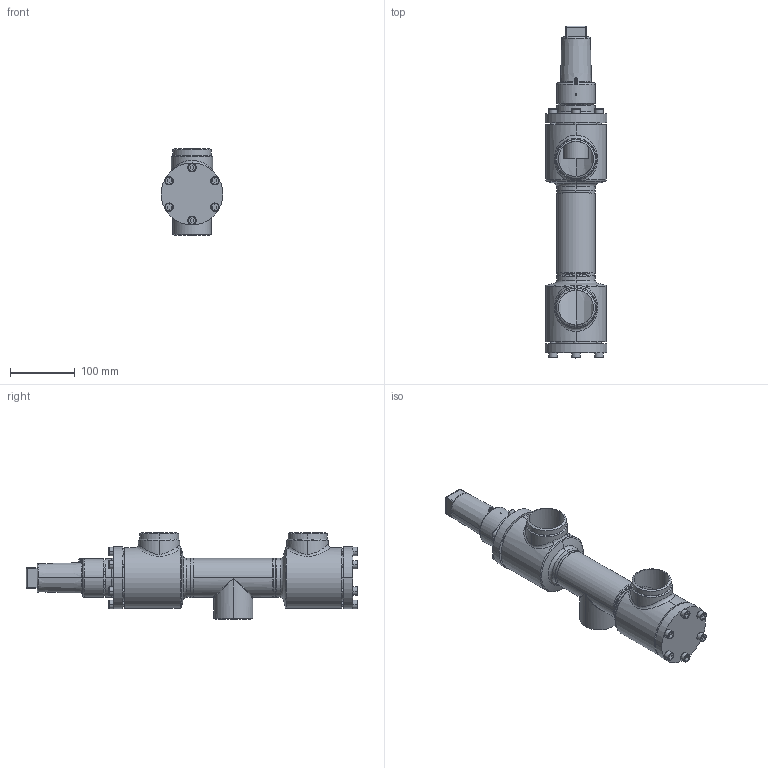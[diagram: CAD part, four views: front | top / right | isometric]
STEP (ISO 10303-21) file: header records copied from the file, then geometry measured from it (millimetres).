
FILE_DESCRIPTION (( 'STEP AP214' ), '1' );
FILE_NAME ('WVB23000D15-DN050_R1_PS40.STEP', '2010-09-08T08:13:57', ( 'Eckhard Grams' ), ( 'AWP Kälte Klima Armaturen GmbH' ), 'SwSTEP 2.0', 'SolidWorks 2002296', '' );
FILE_SCHEMA (( 'AUTOMOTIVE_DESIGN' ));
Length unit declared in the file: millimetre
Products named in the file (12): WVB23000D15-DN050_R1_PS40; WVB-R23000E15_Deck+Schr-DN40-50_Standard; Deckel23000E15-DN40-50_Standard; Geh,kpl23000E15-DN050_R1_PS40_Standard; T-Stück DIN2615_DN 50; Gehäuse23000E15-DN050_R1_PS40_Standard; bead23000-15-2_Standard; bead23000-15-1_Standard; AVB16300E15_Deck+Schr-DN40-50_Standard; Deckel16300E15-DN40-50_Standard; Zylinderschraube-DIN912_M 8x  25; Kappe 16402-15_DN40-65 (M52x3)_Standard
Assembly tree (23 placements, depth 3):
  WVB23000D15-DN050_R1_PS40
    Geh,kpl23000E15-DN050_R1_PS40_Standard
      Gehäuse23000E15-DN050_R1_PS40_Standard  x2
      T-Stück DIN2615_DN 50
      bead23000-15-1_Standard
      bead23000-15-2_Standard
    Kappe 16402-15_DN40-65 (M52x3)_Standard
    WVB-R23000E15_Deck+Schr-DN40-50_Standard
      Zylinderschraube-DIN912_M 8x  25  x6
      Deckel23000E15-DN40-50_Standard
    AVB16300E15_Deck+Schr-DN40-50_Standard
      Deckel16300E15-DN40-50_Standard
      Zylinderschraube-DIN912_M 8x  25  x6
Bounding box: 96 x 514 x 134 mm (x, y, z)
Volume: 1191402.5 mm3; surface area: 303259.1 mm2
Topology: 20 solids, 20 shells, 499 faces, 1111 edges, 687 vertices
Faces by surface type: cylinder 176, plane 175, cone 75, torus 49, bspline 24
Entity records: 28948 total; most frequent: CARTESIAN_POINT 22104, DIRECTION 1330, ORIENTED_EDGE 1204, EDGE_CURVE 602, AXIS2_PLACEMENT_3D 564, VERTEX_POINT 372, EDGE_LOOP 320, CIRCLE 294
